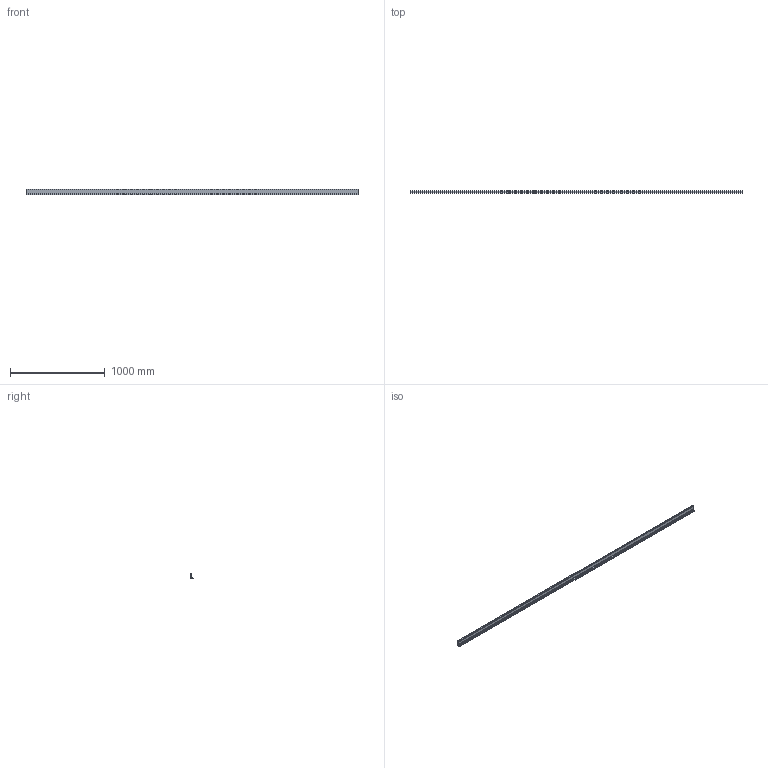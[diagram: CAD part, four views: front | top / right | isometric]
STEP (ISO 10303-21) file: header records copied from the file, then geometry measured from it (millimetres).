
FILE_DESCRIPTION( ( '' ), '1' );
FILE_NAME( 'C:/Documents and Settings/Nikhil/Desktop/Nik/Done/9118966.stp', '2013-10-23T08:26:53', ( '' ), ( '' ), ' ', ' ', ' ' );
FILE_SCHEMA( ( 'automotive_design' ) );
Length unit declared in the file: millimetre
Products named in the file (1): 1
Bounding box: 3500 x 30.01 x 60 mm (x, y, z)
Volume: 1253722.6 mm3; surface area: 1489147 mm2
Topology: 1 solids, 1 shells, 57 faces, 165 edges, 110 vertices
Faces by surface type: plane 50, cylinder 7
Entity records: 3712 total; most frequent: STYLED_ITEM 333, PRESENTATION_STYLE_ASSIGNMENT 333, CARTESIAN_POINT 333, COLOUR_RGB 333, ORIENTED_EDGE 330, DIRECTION 295, EDGE_CURVE 165, CURVE_STYLE 165
